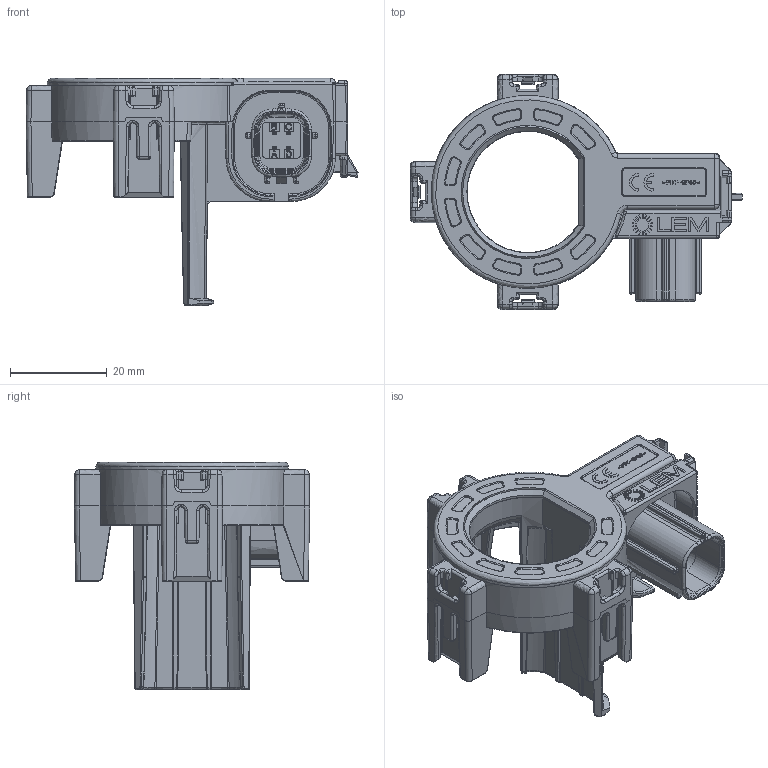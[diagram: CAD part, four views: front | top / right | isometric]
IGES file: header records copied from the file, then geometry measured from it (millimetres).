
Start section: Elysium IGES Interface
Global section: file name: \\GVA50\SD-Data\3D_and_BlackBox_OSM\AUTOMOTIVE\HABT family\HABT_SP10\HABT-SP10_20140402.igs; native system: PTC Creo Elements/Direct Modeling 19.0B  21-Mar-2015; preprocessor: Creo Element/Direct IGES_3D V2.2; author: Unknown; organization: Unknown; date: 20171024.140035; units: millimetre
Bounding box: 68.52 x 48.59 x 46.9 mm (x, y, z)
Volume: 19914.4 mm3; surface area: 13741.4 mm2
Topology: 1 solids, 1 shells, 2016 faces, 5316 edges, 3327 vertices
Faces by surface type: bspline 2016
